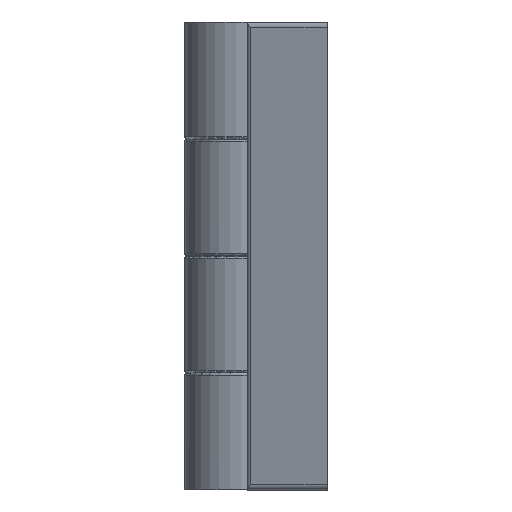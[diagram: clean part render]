
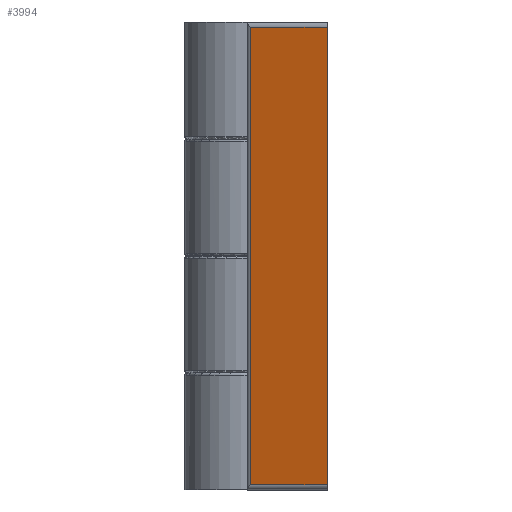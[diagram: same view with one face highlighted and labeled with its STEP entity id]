
A CAD part, left-side view. The second image highlights one B-rep face of the part: STEP entity #3994.
In plain terms, the highlighted planar face has unit normal (-0.932, 0.363, 0).
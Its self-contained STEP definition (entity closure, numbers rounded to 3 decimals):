
#83 = VECTOR ( 'NONE', #1973, 1000. ) ;
#110 = DIRECTION ( 'NONE',  ( 0., 0., -1. ) ) ;
#216 = EDGE_CURVE ( 'NONE', #1431, #1093, #3585, .T. ) ;
#245 = CARTESIAN_POINT ( 'NONE',  ( -20.331, -4.952, 45. ) ) ;
#381 = CARTESIAN_POINT ( 'NONE',  ( -20.331, -4.952, 44.5 ) ) ;
#408 = EDGE_LOOP ( 'NONE', ( #1716, #5175, #2122, #2291 ) ) ;
#627 = CARTESIAN_POINT ( 'NONE',  ( -20.331, -4.952, 45. ) ) ;
#752 = PLANE ( 'NONE',  #4338 ) ;
#1092 = DIRECTION ( 'NONE',  ( 0., 0., -1. ) ) ;
#1093 = VERTEX_POINT ( 'NONE', #4970 ) ;
#1140 = LINE ( 'NONE', #627, #1872 ) ;
#1164 = EDGE_CURVE ( 'NONE', #3700, #1093, #1140, .T. ) ;
#1431 = VERTEX_POINT ( 'NONE', #1949 ) ;
#1587 = VECTOR ( 'NONE', #2418, 1000. ) ;
#1606 = CARTESIAN_POINT ( 'NONE',  ( -17.455, 2.43, 0. ) ) ;
#1716 = ORIENTED_EDGE ( 'NONE', *, *, #5143, .T. ) ;
#1872 = VECTOR ( 'NONE', #110, 1000. ) ;
#1949 = CARTESIAN_POINT ( 'NONE',  ( -17.455, 2.43, 0.5 ) ) ;
#1973 = DIRECTION ( 'NONE',  ( 0.363, 0.932, 0. ) ) ;
#2122 = ORIENTED_EDGE ( 'NONE', *, *, #1164, .F. ) ;
#2291 = ORIENTED_EDGE ( 'NONE', *, *, #2485, .T. ) ;
#2418 = DIRECTION ( 'NONE',  ( -0.363, -0.932, 0. ) ) ;
#2485 = EDGE_CURVE ( 'NONE', #3700, #3062, #3138, .T. ) ;
#2560 = CARTESIAN_POINT ( 'NONE',  ( -20.331, -4.952, 44.5 ) ) ;
#3006 = CARTESIAN_POINT ( 'NONE',  ( -20.331, -4.952, 0.5 ) ) ;
#3062 = VERTEX_POINT ( 'NONE', #3968 ) ;
#3138 = LINE ( 'NONE', #2560, #83 ) ;
#3303 = LINE ( 'NONE', #1606, #3689 ) ;
#3585 = LINE ( 'NONE', #3006, #1587 ) ;
#3689 = VECTOR ( 'NONE', #1092, 1000. ) ;
#3700 = VERTEX_POINT ( 'NONE', #381 ) ;
#3968 = CARTESIAN_POINT ( 'NONE',  ( -17.455, 2.43, 44.5 ) ) ;
#3994 = ADVANCED_FACE ( 'NONE', ( #4217 ), #752, .F. ) ;
#4217 = FACE_OUTER_BOUND ( 'NONE', #408, .T. ) ;
#4338 = AXIS2_PLACEMENT_3D ( 'NONE', #245, #4981, #4458 ) ;
#4458 = DIRECTION ( 'NONE',  ( 0., 0., -1. ) ) ;
#4970 = CARTESIAN_POINT ( 'NONE',  ( -20.331, -4.952, 0.5 ) ) ;
#4981 = DIRECTION ( 'NONE',  ( 0.932, -0.363, 0. ) ) ;
#5143 = EDGE_CURVE ( 'NONE', #3062, #1431, #3303, .T. ) ;
#5175 = ORIENTED_EDGE ( 'NONE', *, *, #216, .T. ) ;
